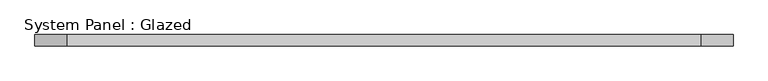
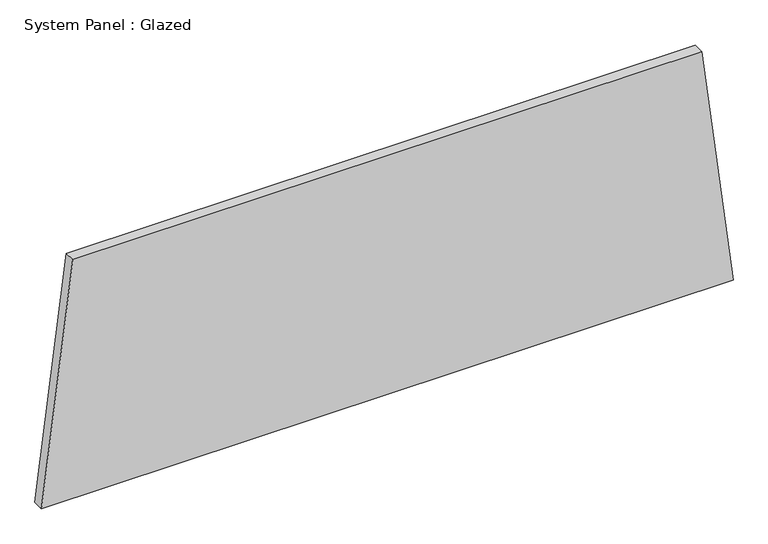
"""IFC4 building model written with IfcOpenShell, lengths in millimetres: plate geometry, System Panel : Glazed."""

from ifc_helpers import new_model, si_unit, frame, origin, place, context, project, spatial, polyline, outline, extrude, source, transform, mapped, element, save


def system_panel_glazed_11c8000a(model_context):
    return source(origin(), model_context, "Body", "SweptSolid", [
        extrude(outline(polyline([(0.0, -793.662463), (0.0, 793.662463), (579.5391204, 721.5831263), (579.5391204, -721.5831263), (0.0, -793.662463)])), frame((0.0, 19.05, 0.0), z_axis=(0.0, 1.0, 0.0), x_axis=(0.0, 0.0, 1.0)), (0.0, 0.0, 1.0), 25.4),
    ])


if __name__ == "__main__":
    model = new_model("IFC4")
    model_context = context("Model", 3, world=origin())
    ifc_project = project(units=[si_unit("LENGTHUNIT", "METRE", prefix="MILLI")], contexts=[model_context])
    site = spatial("IfcSite", under=ifc_project)
    building = spatial("IfcBuilding", under=site)
    placement = place(None, origin())
    system_panel_glazed_shape = system_panel_glazed_11c8000a(model_context)
    element("IfcPlate", 1, ObjectType="System Panel : Glazed", at=placement, inside=building, context=model_context, shape_type="MappedRepresentation", body=[
        mapped(system_panel_glazed_shape, transform((0.0, 0.0, 0.0), x_axis=(1.0, 0.0, 0.0), y_axis=(0.0, 1.0, 0.0), z_axis=(0.0, 0.0, 1.0))),
    ])
    save(model, "model.ifc")
